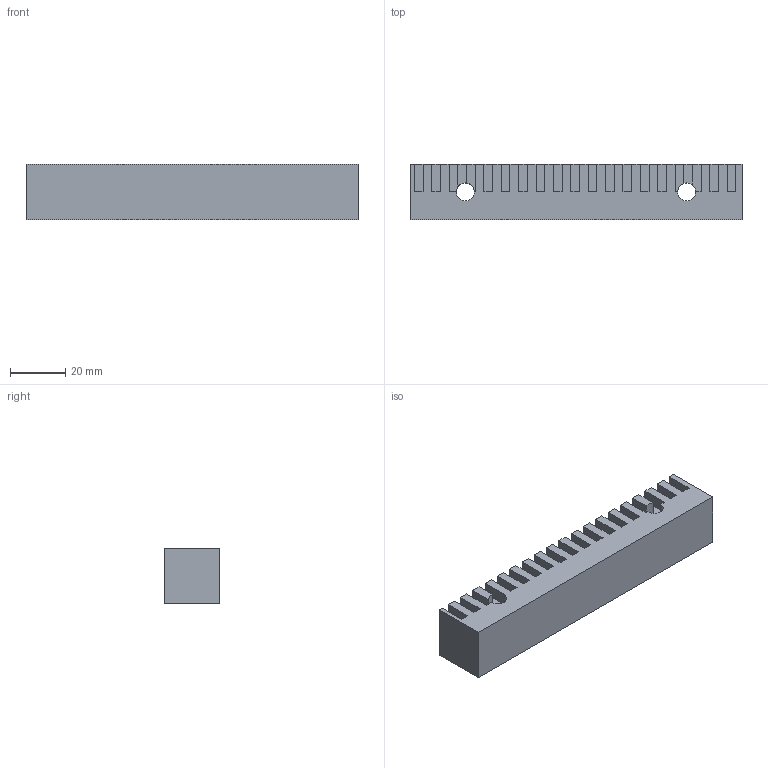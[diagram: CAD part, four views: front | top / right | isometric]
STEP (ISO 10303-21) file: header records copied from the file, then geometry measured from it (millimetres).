
FILE_DESCRIPTION(('Open CASCADE Model'),'2;1');
FILE_NAME('Open CASCADE Shape Model','2026-10-30T15:31:22',('Author'),( 'Open CASCADE'),'Open CASCADE STEP processor 7.9','Open CASCADE 7.9' ,'Unknown');
FILE_SCHEMA(('AUTOMOTIVE_DESIGN { 1 0 10303 214 1 1 1 1 }'));
Length unit declared in the file: millimetre
Products named in the file (2): f5af0242-d476-11f1-b243-f97a45f65df4; gear_rack
Assembly tree (1 placements, depth 2):
  f5af0242-d476-11f1-b243-f97a45f65df4
    gear_rack
Bounding box: 120 x 20 x 20 mm (x, y, z)
Volume: 44052 mm3; surface area: 12655.9 mm2
Topology: 1 solids, 1 shells, 86 faces, 256 edges, 170 vertices
Faces by surface type: plane 84, cylinder 2
Full cylindrical faces by diameter (mm): 6.5 x2
Entity records: 5967 total; most frequent: CARTESIAN_POINT 1266, DIRECTION 714, ORIENTED_EDGE 512, PCURVE 512, DEFINITIONAL_REPRESENTATION 512, LINE 508, VECTOR 508, EDGE_CURVE 256
